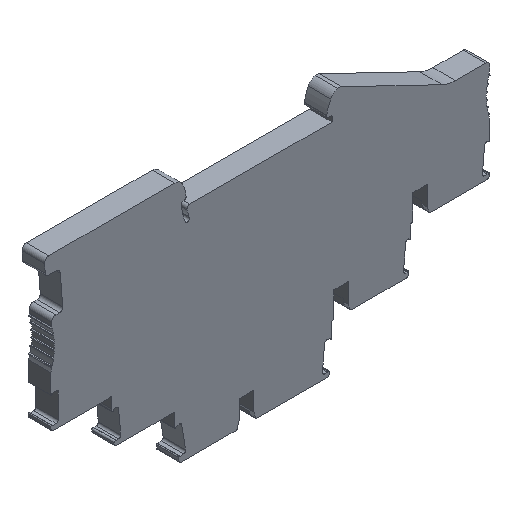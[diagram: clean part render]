
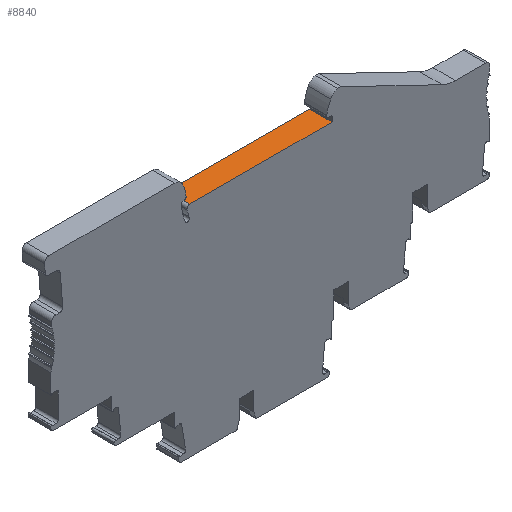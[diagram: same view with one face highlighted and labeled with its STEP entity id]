
A CAD part, isometric view. The second image highlights one B-rep face of the part: STEP entity #8840.
In plain terms, the highlighted planar face has unit normal (0, 0, 1).
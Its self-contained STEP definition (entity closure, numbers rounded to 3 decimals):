
#855=FACE_OUTER_BOUND('',#1291,.T.);
#1291=EDGE_LOOP('',(#6685,#6686,#6687,#6688));
#1808=LINE('',#12607,#2860);
#1939=LINE('',#13058,#2991);
#2049=LINE('',#13400,#3101);
#2050=LINE('',#13402,#3102);
#2860=VECTOR('',#10162,32.831);
#2991=VECTOR('',#10481,32.831);
#3101=VECTOR('',#10783,5.18);
#3102=VECTOR('',#10786,5.18);
#3898=VERTEX_POINT('',#12604);
#3899=VERTEX_POINT('',#12606);
#4116=VERTEX_POINT('',#13055);
#4117=VERTEX_POINT('',#13057);
#4786=EDGE_CURVE('',#3898,#3899,#1808,.T.);
#5010=EDGE_CURVE('',#4117,#4116,#1939,.T.);
#5178=EDGE_CURVE('',#3899,#4116,#2049,.T.);
#5179=EDGE_CURVE('',#3898,#4117,#2050,.T.);
#6685=ORIENTED_EDGE('',*,*,#5179,.T.);
#6686=ORIENTED_EDGE('',*,*,#5010,.T.);
#6687=ORIENTED_EDGE('',*,*,#5178,.F.);
#6688=ORIENTED_EDGE('',*,*,#4786,.F.);
#8486=PLANE('',#9468);
#8840=ADVANCED_FACE('',(#855),#8486,.T.);
#9468=AXIS2_PLACEMENT_3D('',#13401,#10784,#10785);
#10162=DIRECTION('',(1.,0.,0.));
#10481=DIRECTION('',(1.,0.,0.));
#10783=DIRECTION('',(0.,-1.,0.));
#10784=DIRECTION('center_axis',(0.,0.,1.));
#10785=DIRECTION('ref_axis',(1.,0.,0.));
#10786=DIRECTION('',(0.,-1.,0.));
#12604=CARTESIAN_POINT('',(-16.991,2.6,27.399));
#12606=CARTESIAN_POINT('',(15.84,2.6,27.399));
#12607=CARTESIAN_POINT('',(-16.991,2.6,27.399));
#13055=CARTESIAN_POINT('',(15.84,-2.58,27.399));
#13057=CARTESIAN_POINT('',(-16.991,-2.58,27.399));
#13058=CARTESIAN_POINT('',(-16.991,-2.58,27.399));
#13400=CARTESIAN_POINT('',(15.84,2.6,27.399));
#13401=CARTESIAN_POINT('Origin',(-17.141,-1.5,27.399));
#13402=CARTESIAN_POINT('',(-16.991,2.6,27.399));
